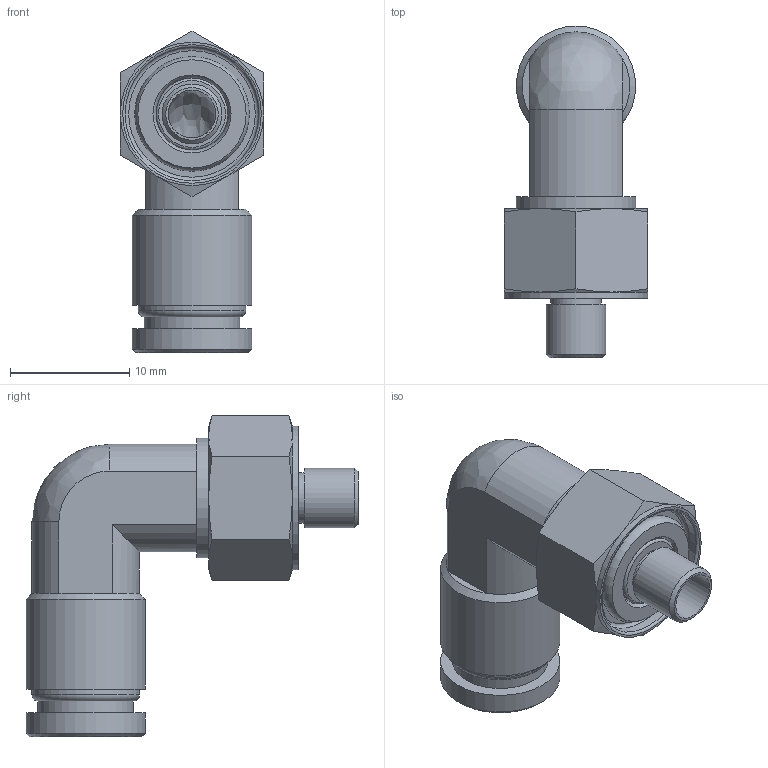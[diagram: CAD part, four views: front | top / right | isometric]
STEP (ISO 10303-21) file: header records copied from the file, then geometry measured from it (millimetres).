
FILE_DESCRIPTION(/* description */ (''),/* implementation_level */ '2;1');
FILE_NAME(/* name */ 'LXH28 0006 M5.stp',/* time_stamp */ '2026-04-30T12:48:26+02:00',/* author */ ('freju'),/* organization */ (''),/* preprocessor_version */ 'ST-DEVELOPER v20.1',/* originating_system */ 'Autodesk Inventor 2026',/* authorisation */ '');
FILE_SCHEMA (('AUTOMOTIVE_DESIGN { 1 0 10303 214 3 1 1 }'));
Length unit declared in the file: millimetre
Products named in the file (4): LXH28 0006 M5; LXH28 0006 M5_1; O-Ring; ISO 3601-1 - A 0060 G
Assembly tree (3 placements, depth 3):
  LXH28 0006 M5
    LXH28 0006 M5_1
    O-Ring
      ISO 3601-1 - A 0060 G
Bounding box: 12 x 27.8 x 26.93 mm (x, y, z)
Volume: 2168.4 mm3; surface area: 2346.3 mm2
Topology: 2 solids, 2 shells, 64 faces, 136 edges, 83 vertices
Faces by surface type: plane 23, cylinder 17, cone 15, torus 7, bspline 2
Full cylindrical faces by diameter (mm): 4 x2, 4.2 x1, 5 x1, 6 x2, 8 x1, 9 x1, 10 x3, 11.2 x1, 12 x1
Entity records: 1880 total; most frequent: CARTESIAN_POINT 376, DIRECTION 324, ORIENTED_EDGE 268, AXIS2_PLACEMENT_3D 145, EDGE_CURVE 134, VERTEX_POINT 83, EDGE_LOOP 77, CIRCLE 75
